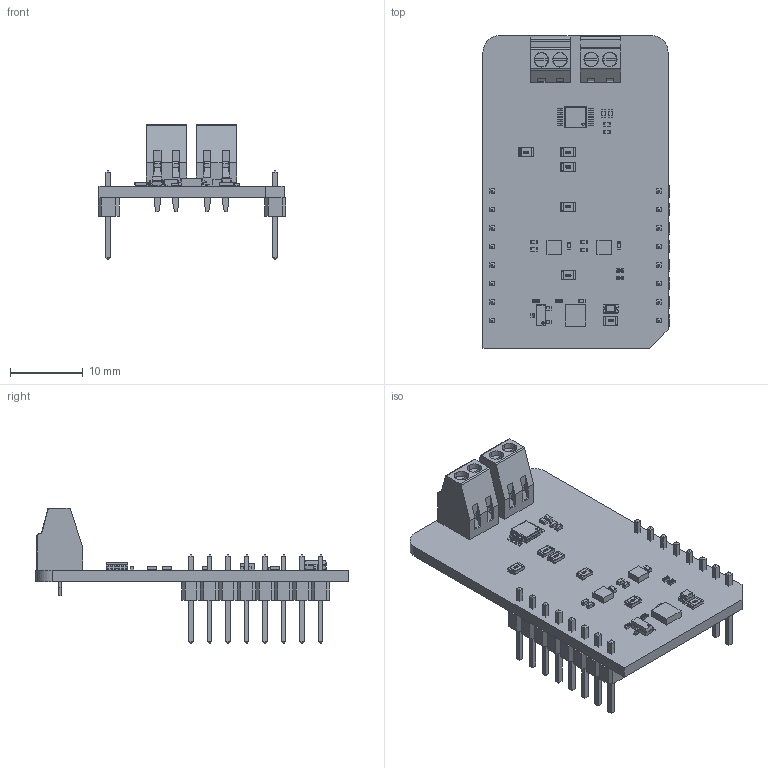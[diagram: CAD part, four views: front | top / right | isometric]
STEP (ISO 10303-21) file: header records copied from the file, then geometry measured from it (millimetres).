
FILE_DESCRIPTION(('Open CASCADE Model'),'2;1');
FILE_NAME('Open CASCADE Shape Model','2025-11-20T12:05:38',('Author'),( 'Open CASCADE'),'Open CASCADE STEP processor 7.5','Open CASCADE 7.5' ,'Unknown');
FILE_SCHEMA(('AUTOMOTIVE_DESIGN { 1 0 10303 214 1 1 1 1 }'));
Length unit declared in the file: millimetre
Products named in the file (50): PCB; Board; Open CASCADE STEP translator 7.5 1.1.1; C11; User Library-SMD CAPACITOR0402; C4; U4; 9436101920; Extruded; TB2; ScrewTerminal 2.54; TB1; R5; User Library-R_0402; JP4; User Library-R_0805; JP3; JP2; C3; C2; JP1; MBD1; Header 1x8; Free-Models; 1240637040; User_Library-PinHeaderX5-1_PinHeaderX5_Body_1; User_Library-PinHeaderX5-1_PinHeaderX5_Pins_1; U1; 6639707200; Q1; SOT23-3; R4; C1; R2; LD1; led_0805_green; R1; U2; TPS53015DGS; U3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
Assembly tree (71 placements, depth 7):
  PCB
    Board
      Open CASCADE STEP translator 7.5 1.1.1
    C11
      User Library-SMD CAPACITOR0402
    C4
      User Library-SMD CAPACITOR0402
    U4
      9436101920
        Extruded
    TB2
      ScrewTerminal 2.54
    TB1
      ScrewTerminal 2.54
    R5
      User Library-R_0402
    JP4
      User Library-R_0805
    JP3
      User Library-R_0805
    JP2
      User Library-R_0805
    C3
      User Library-SMD CAPACITOR0402
    C2
      User Library-SMD CAPACITOR0402
    JP1
      User Library-R_0805
    MBD1
      Header 1x8  x2
        PCB
          Free-Models
            1240637040  x2
              User_Library-PinHeaderX5-1_PinHeaderX5_Body_1
              User_Library-PinHeaderX5-1_PinHeaderX5_Pins_1
    U1
      6639707200
        Extruded
    Q1
      SOT23-3
    R4
      User Library-R_0402
    C1
      User Library-SMD CAPACITOR0402
    R2
      User Library-R_0402
    LD1
      led_0805_green
    R1
      User Library-R_0805
    U2
      TPS53015DGS
    U3
      9436101920
        Extruded
    C6
      User Library-SMD CAPACITOR0402
    C7
      User Library-SMD CAPACITOR0402
    C8
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Bounding box: 25.78 x 42.93 x 18.61 mm (x, y, z)
Volume: 2584.4 mm3; surface area: 5320.4 mm2
Topology: 91 solids, 91 shells, 2501 faces, 6211 edges, 3906 vertices
Faces by surface type: plane 1696, bspline 364, cylinder 347, sphere 94
Entity records: 32661 total; most frequent: CARTESIAN_POINT 8837, ORIENTED_EDGE 4132, DIRECTION 3871, EDGE_CURVE 2066, LINE 1627, VECTOR 1627, VERTEX_POINT 1328, AXIS2_PLACEMENT_3D 1122
